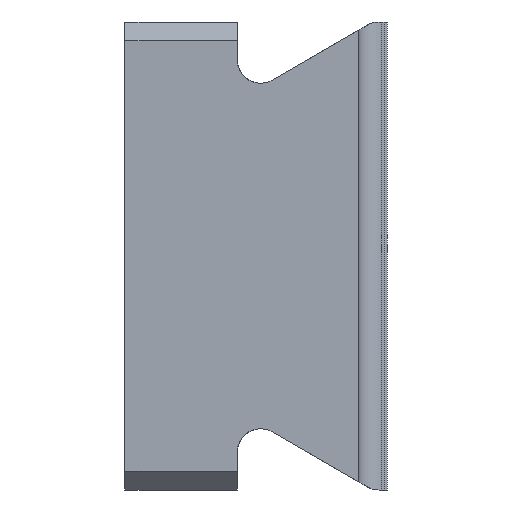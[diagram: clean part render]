
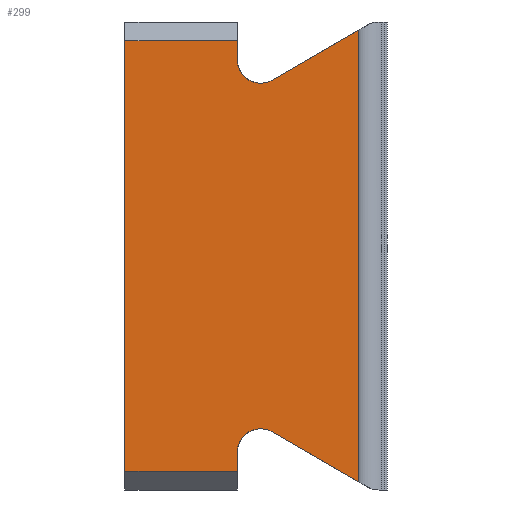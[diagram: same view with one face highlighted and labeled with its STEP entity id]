
A CAD part, left-side view. The second image highlights one B-rep face of the part: STEP entity #299.
In plain terms, the highlighted planar face has unit normal (-1, 0, 0).
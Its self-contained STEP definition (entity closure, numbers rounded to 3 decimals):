
#14 = CARTESIAN_POINT ( 'NONE',  ( -20., 13.5, 20.959 ) ) ;
#170 = EDGE_CURVE ( 'NONE', #5292, #640, #3880, .T. ) ;
#299 = ADVANCED_FACE ( 'NONE', ( #5686 ), #432, .F. ) ;
#309 = CARTESIAN_POINT ( 'NONE',  ( -20., 24.276, -11.85 ) ) ;
#335 = CARTESIAN_POINT ( 'NONE',  ( -20., 16., -20.959 ) ) ;
#348 = ORIENTED_EDGE ( 'NONE', *, *, #3735, .T. ) ;
#432 = PLANE ( 'NONE',  #2791 ) ;
#436 = ORIENTED_EDGE ( 'NONE', *, *, #5204, .T. ) ;
#495 = CARTESIAN_POINT ( 'NONE',  ( -20., 3., 25. ) ) ;
#525 = DIRECTION ( 'NONE',  ( 0., 0., -1. ) ) ;
#619 = CARTESIAN_POINT ( 'NONE',  ( -20., 12.25, -18.793 ) ) ;
#621 = DIRECTION ( 'NONE',  ( 0., 0., -1. ) ) ;
#632 = EDGE_LOOP ( 'NONE', ( #2550, #6715, #436, #6324, #3368, #6677, #3150, #6126, #348, #4868 ) ) ;
#640 = VERTEX_POINT ( 'NONE', #619 ) ;
#865 = VECTOR ( 'NONE', #3096, 1000. ) ;
#1020 = DIRECTION ( 'NONE',  ( 0., 0.866, -0.5 ) ) ;
#1130 = DIRECTION ( 'NONE',  ( 0., 0., -1. ) ) ;
#1139 = CARTESIAN_POINT ( 'NONE',  ( -20., 16., 20.959 ) ) ;
#1173 = VECTOR ( 'NONE', #1130, 1000. ) ;
#1184 = CARTESIAN_POINT ( 'NONE',  ( -20., 16., 25. ) ) ;
#1187 = VECTOR ( 'NONE', #5616, 1000. ) ;
#1189 = EDGE_CURVE ( 'NONE', #1357, #1964, #2033, .T. ) ;
#1220 = DIRECTION ( 'NONE',  ( 0., 0., 1. ) ) ;
#1356 = EDGE_CURVE ( 'NONE', #3779, #3117, #5260, .T. ) ;
#1357 = VERTEX_POINT ( 'NONE', #2696 ) ;
#1519 = CARTESIAN_POINT ( 'NONE',  ( -20., 3., 23. ) ) ;
#1741 = CARTESIAN_POINT ( 'NONE',  ( -20., 3., 24.134 ) ) ;
#1815 = LINE ( 'NONE', #2872, #2928 ) ;
#1857 = DIRECTION ( 'NONE',  ( 0., 0., -1. ) ) ;
#1964 = VERTEX_POINT ( 'NONE', #1139 ) ;
#2033 = CIRCLE ( 'NONE', #3447, 2.5 ) ;
#2102 = EDGE_CURVE ( 'NONE', #6256, #4709, #2699, .T. ) ;
#2186 = CARTESIAN_POINT ( 'NONE',  ( -20., 28., -23. ) ) ;
#2375 = DIRECTION ( 'NONE',  ( 0., -0.866, -0.5 ) ) ;
#2432 = DIRECTION ( 'NONE',  ( 1., 0., 0. ) ) ;
#2502 = DIRECTION ( 'NONE',  ( 1., 0., 0. ) ) ;
#2550 = ORIENTED_EDGE ( 'NONE', *, *, #1356, .T. ) ;
#2696 = CARTESIAN_POINT ( 'NONE',  ( -20., 12.25, 18.793 ) ) ;
#2699 = LINE ( 'NONE', #4749, #1173 ) ;
#2709 = VECTOR ( 'NONE', #2375, 1000. ) ;
#2791 = AXIS2_PLACEMENT_3D ( 'NONE', #495, #2502, #525 ) ;
#2872 = CARTESIAN_POINT ( 'NONE',  ( -20., 16., -23. ) ) ;
#2928 = VECTOR ( 'NONE', #4443, 1000. ) ;
#3096 = DIRECTION ( 'NONE',  ( 0., 0., 1. ) ) ;
#3117 = VERTEX_POINT ( 'NONE', #2186 ) ;
#3130 = LINE ( 'NONE', #5696, #6307 ) ;
#3150 = ORIENTED_EDGE ( 'NONE', *, *, #4985, .T. ) ;
#3296 = CARTESIAN_POINT ( 'NONE',  ( -20., 28., 23. ) ) ;
#3368 = ORIENTED_EDGE ( 'NONE', *, *, #4438, .T. ) ;
#3447 = AXIS2_PLACEMENT_3D ( 'NONE', #14, #4715, #5611 ) ;
#3528 = LINE ( 'NONE', #1519, #1187 ) ;
#3735 = EDGE_CURVE ( 'NONE', #1964, #4563, #5183, .T. ) ;
#3779 = VERTEX_POINT ( 'NONE', #3296 ) ;
#3823 = CARTESIAN_POINT ( 'NONE',  ( -20., 28., 25. ) ) ;
#3880 = CIRCLE ( 'NONE', #4974, 2.5 ) ;
#3905 = CARTESIAN_POINT ( 'NONE',  ( -20., 13.5, -20.959 ) ) ;
#3913 = EDGE_CURVE ( 'NONE', #4563, #3779, #3528, .T. ) ;
#4163 = EDGE_CURVE ( 'NONE', #3117, #4933, #1815, .T. ) ;
#4362 = LINE ( 'NONE', #1184, #4893 ) ;
#4438 = EDGE_CURVE ( 'NONE', #640, #4709, #6004, .T. ) ;
#4443 = DIRECTION ( 'NONE',  ( 0., -1., 0. ) ) ;
#4563 = VERTEX_POINT ( 'NONE', #6105 ) ;
#4709 = VERTEX_POINT ( 'NONE', #6437 ) ;
#4715 = DIRECTION ( 'NONE',  ( 1., 0., 0. ) ) ;
#4749 = CARTESIAN_POINT ( 'NONE',  ( -20., 3., 25. ) ) ;
#4868 = ORIENTED_EDGE ( 'NONE', *, *, #3913, .T. ) ;
#4893 = VECTOR ( 'NONE', #1220, 1000. ) ;
#4933 = VERTEX_POINT ( 'NONE', #6644 ) ;
#4974 = AXIS2_PLACEMENT_3D ( 'NONE', #3905, #2432, #1857 ) ;
#4985 = EDGE_CURVE ( 'NONE', #6256, #1357, #3130, .T. ) ;
#5183 = LINE ( 'NONE', #5697, #865 ) ;
#5204 = EDGE_CURVE ( 'NONE', #4933, #5292, #4362, .T. ) ;
#5260 = LINE ( 'NONE', #3823, #5421 ) ;
#5292 = VERTEX_POINT ( 'NONE', #335 ) ;
#5421 = VECTOR ( 'NONE', #621, 1000. ) ;
#5611 = DIRECTION ( 'NONE',  ( 0., 0., -1. ) ) ;
#5616 = DIRECTION ( 'NONE',  ( 0., 1., 0. ) ) ;
#5686 = FACE_OUTER_BOUND ( 'NONE', #632, .T. ) ;
#5696 = CARTESIAN_POINT ( 'NONE',  ( -20., 2.625, 24.35 ) ) ;
#5697 = CARTESIAN_POINT ( 'NONE',  ( -20., 16., 25. ) ) ;
#6004 = LINE ( 'NONE', #309, #2709 ) ;
#6105 = CARTESIAN_POINT ( 'NONE',  ( -20., 16., 23. ) ) ;
#6126 = ORIENTED_EDGE ( 'NONE', *, *, #1189, .T. ) ;
#6256 = VERTEX_POINT ( 'NONE', #1741 ) ;
#6307 = VECTOR ( 'NONE', #1020, 1000. ) ;
#6324 = ORIENTED_EDGE ( 'NONE', *, *, #170, .T. ) ;
#6437 = CARTESIAN_POINT ( 'NONE',  ( -20., 3., -24.134 ) ) ;
#6644 = CARTESIAN_POINT ( 'NONE',  ( -20., 16., -23. ) ) ;
#6677 = ORIENTED_EDGE ( 'NONE', *, *, #2102, .F. ) ;
#6715 = ORIENTED_EDGE ( 'NONE', *, *, #4163, .T. ) ;
